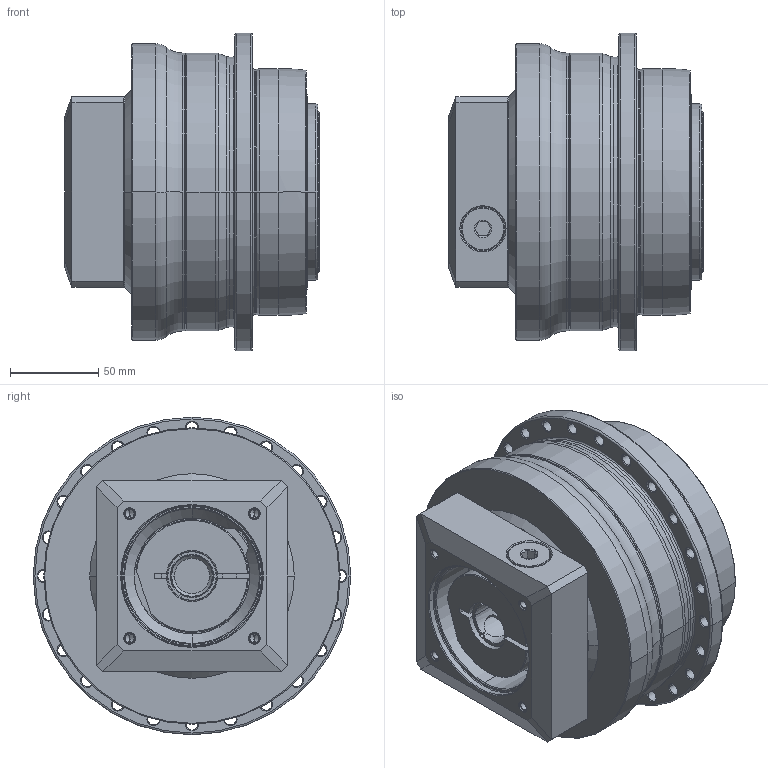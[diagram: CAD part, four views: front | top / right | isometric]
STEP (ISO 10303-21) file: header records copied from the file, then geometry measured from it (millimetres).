
FILE_DESCRIPTION((''),'2;1');
FILE_NAME('AP140_1ST_24-P0409510201_ASM','2018-05-24T',('d01226'),(''),'PRO/ENGINEER BY PARAMETRIC TECHNOLOGY CORPORATION, 2008410','PRO/ENGINEER BY PARAMETRIC TECHNOLOGY CORPORATION, 2008410','');
FILE_SCHEMA(('CONFIG_CONTROL_DESIGN'));
Length unit declared in the file: millimetre
Products named in the file (9): P0278501003; P0359501103; P1318510001; P0503500010; P0912550001; P1211500001; P0409510201; 21711418017; AP140_1ST_24-P0409510201_ASM
Assembly tree (8 placements, depth 2):
  AP140_1ST_24-P0409510201_ASM
    P0278501003
    P0359501103
    P1318510001
    P0503500010
    P0912550001
    P1211500001
    P0409510201
    21711418017
Bounding box: 144.5 x 180 x 180 mm (x, y, z)
Volume: 2094602.2 mm3; surface area: 279516.7 mm2
Topology: 9 solids, 34 shells, 636 faces, 1484 edges, 918 vertices
Faces by surface type: cylinder 269, cone 179, plane 108, torus 66, bspline 14
Entity records: 23529 total; most frequent: CARTESIAN_POINT 8183, DIRECTION 3523, ORIENTED_EDGE 2850, AXIS2_PLACEMENT_3D 1505, EDGE_CURVE 1476, VERTEX_POINT 918, CIRCLE 856, EDGE_LOOP 792
